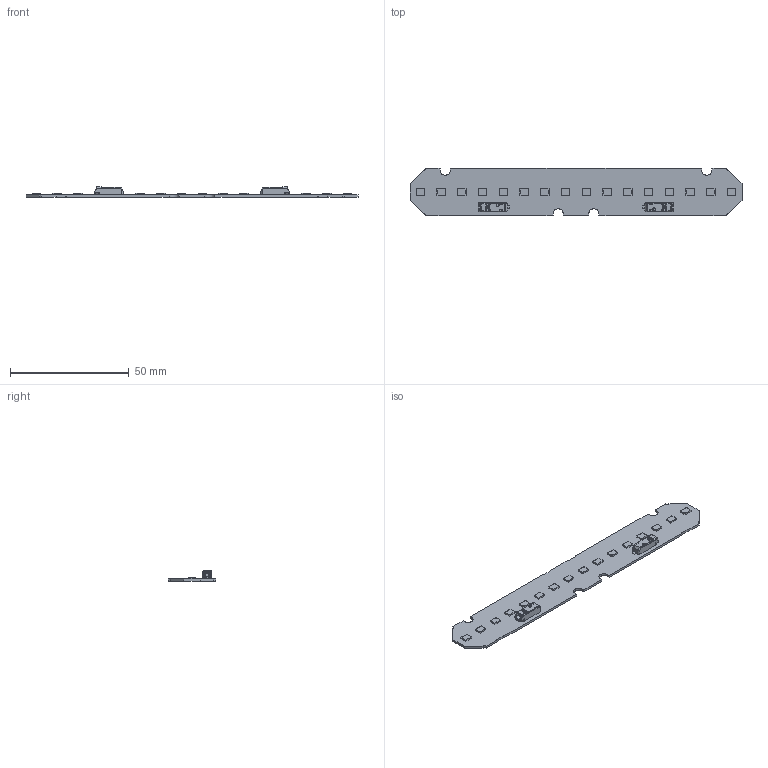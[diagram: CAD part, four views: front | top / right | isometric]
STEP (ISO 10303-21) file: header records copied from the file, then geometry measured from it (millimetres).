
FILE_DESCRIPTION(/* description */ ('Unknown'),/* implementation_level */ '2;1');
FILE_NAME(/* name */ 'LinLED 1100lm per 1ft 2C 32LED per 1ft 140x20',/* time_stamp */ '2023-05-11T15:25:53+02:00',/* author */ ('Unknown'),/* organization */ ('Unknown'),/* preprocessor_version */ 'ST-DEVELOPER v18.102',/* originating_system */ 'Solid Edge',/* authorisation */ 'Unknown');
FILE_SCHEMA (('AUTOMOTIVE_DESIGN {1 0 10303 214 3 1 1}'));
Length unit declared in the file: millimetre
Products named in the file (1): LinLED 1100lm per 1ft 2C 32LED per 1ft 140x20
Bounding box: 139.6 x 20 x 4.45 mm (x, y, z)
Volume: 2997 mm3; surface area: 6185.9 mm2
Topology: 1 solids, 1 shells, 774 faces, 2014 edges, 1274 vertices
Faces by surface type: plane 472, cylinder 146, torus 64, cone 50, bspline 26, sphere 16
Entity records: 29850 total; most frequent: CARTESIAN_POINT 6289, ORIENTED_EDGE 3980, DIRECTION 3344, EDGE_CURVE 1990, LINE 1350, VECTOR 1350, VERTEX_POINT 1268, AXIS2_PLACEMENT_3D 997
